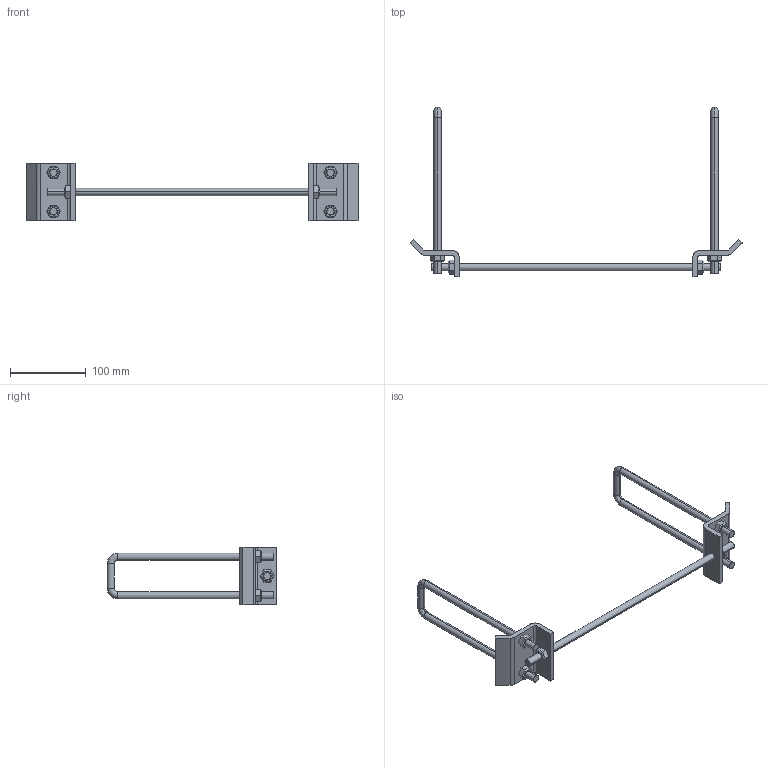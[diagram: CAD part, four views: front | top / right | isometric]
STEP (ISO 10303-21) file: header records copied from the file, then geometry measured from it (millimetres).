
FILE_DESCRIPTION(('TurboCAD Mac Pro'),'Build 980');
FILE_NAME('P2868B-15.stp',' ',(''),(''),'ACIS Interop','IMSI','TurboCAD Mac Pro BY IMSI, INCORPORATED');
FILE_SCHEMA(('automotive_design'));
Length unit declared in the file: inch
Products named in the file (11): 1; 2; 3; 4; 5; 6; 7; 8; 9; 10; 11
Bounding box: 437.6 x 223.86 x 76.2 mm (x, y, z)
Volume: 189701.3 mm3; surface area: 79110.2 mm2
Topology: 11 solids, 11 shells, 176 faces, 410 edges, 256 vertices
Faces by surface type: plane 110, bspline 40, cylinder 26
Entity records: 9060 total; most frequent: CARTESIAN_POINT 1837, ORIENTED_EDGE 820, DIRECTION 692, STYLED_ITEM 533, PRESENTATION_STYLE_ASSIGNMENT 533, COLOUR_RGB 533, EDGE_CURVE 410, CURVE_STYLE 346
